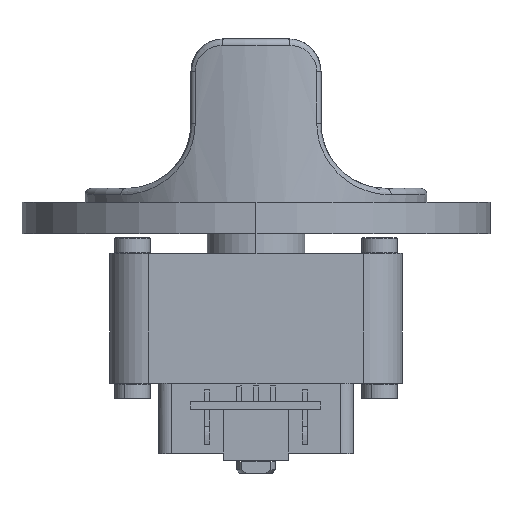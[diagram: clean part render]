
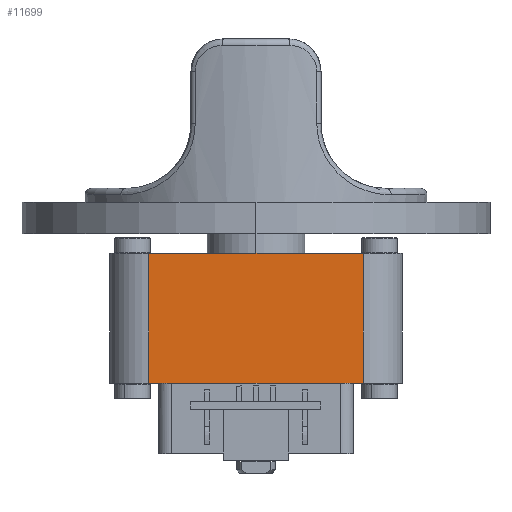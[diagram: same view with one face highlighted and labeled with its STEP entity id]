
A CAD part, front view. The second image highlights one B-rep face of the part: STEP entity #11699.
In plain terms, the highlighted planar face has unit normal (0, -1, 0).
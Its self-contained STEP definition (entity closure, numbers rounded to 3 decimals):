
#134 = ORIENTED_EDGE ( 'NONE', *, *, #9969, .T. ) ;
#433 = CARTESIAN_POINT ( 'NONE',  ( 16.5, -16.1, -23. ) ) ;
#679 = VECTOR ( 'NONE', #1800, 1000. ) ;
#1027 = LINE ( 'NONE', #4907, #4595 ) ;
#1129 = EDGE_CURVE ( 'NONE', #11174, #11327, #7419, .T. ) ;
#1163 = DIRECTION ( 'NONE',  ( 0.545, 0., -0.839 ) ) ;
#1204 = DIRECTION ( 'NONE',  ( 0., 1., 0. ) ) ;
#1219 = LINE ( 'NONE', #12604, #6953 ) ;
#1646 = CARTESIAN_POINT ( 'NONE',  ( -16.5, -16.1, -3. ) ) ;
#1800 = DIRECTION ( 'NONE',  ( 0., 0., 1. ) ) ;
#2129 = EDGE_CURVE ( 'NONE', #11940, #11327, #1027, .T. ) ;
#2149 = VECTOR ( 'NONE', #9748, 1000. ) ;
#2265 = VECTOR ( 'NONE', #7425, 1000. ) ;
#2302 = CARTESIAN_POINT ( 'NONE',  ( 16.5, -16.1, -76.535 ) ) ;
#2812 = DIRECTION ( 'NONE',  ( 1., 0., 0. ) ) ;
#2894 = CARTESIAN_POINT ( 'NONE',  ( 14.67, -16.1, -23. ) ) ;
#3103 = ORIENTED_EDGE ( 'NONE', *, *, #7248, .T. ) ;
#3108 = VECTOR ( 'NONE', #5209, 1000. ) ;
#3345 = LINE ( 'NONE', #8762, #679 ) ;
#3362 = CARTESIAN_POINT ( 'NONE',  ( 16.5, -16.1, -23. ) ) ;
#3564 = EDGE_CURVE ( 'NONE', #9597, #11940, #3345, .T. ) ;
#4586 = VERTEX_POINT ( 'NONE', #12765 ) ;
#4595 = VECTOR ( 'NONE', #2812, 1000. ) ;
#4849 = AXIS2_PLACEMENT_3D ( 'NONE', #2302, #1204, #1163 ) ;
#4907 = CARTESIAN_POINT ( 'NONE',  ( -16.5, -16.1, -3. ) ) ;
#5066 = EDGE_LOOP ( 'NONE', ( #10908, #6589, #134, #9282, #3103, #8743 ) ) ;
#5209 = DIRECTION ( 'NONE',  ( 1., 0., 0. ) ) ;
#6100 = PLANE ( 'NONE',  #4849 ) ;
#6589 = ORIENTED_EDGE ( 'NONE', *, *, #3564, .F. ) ;
#6649 = VERTEX_POINT ( 'NONE', #2894 ) ;
#6953 = VECTOR ( 'NONE', #11725, 1000. ) ;
#7097 = EDGE_CURVE ( 'NONE', #4586, #6649, #10370, .T. ) ;
#7248 = EDGE_CURVE ( 'NONE', #6649, #11174, #1219, .T. ) ;
#7419 = LINE ( 'NONE', #9339, #2149 ) ;
#7425 = DIRECTION ( 'NONE',  ( 1., 0., 0. ) ) ;
#8743 = ORIENTED_EDGE ( 'NONE', *, *, #1129, .T. ) ;
#8762 = CARTESIAN_POINT ( 'NONE',  ( -16.5, -16.1, -76.535 ) ) ;
#9282 = ORIENTED_EDGE ( 'NONE', *, *, #7097, .T. ) ;
#9339 = CARTESIAN_POINT ( 'NONE',  ( 16.5, -16.1, -76.535 ) ) ;
#9597 = VERTEX_POINT ( 'NONE', #9617 ) ;
#9617 = CARTESIAN_POINT ( 'NONE',  ( -16.5, -16.1, -23. ) ) ;
#9748 = DIRECTION ( 'NONE',  ( 0., 0., 1. ) ) ;
#9969 = EDGE_CURVE ( 'NONE', #9597, #4586, #11853, .T. ) ;
#10099 = FACE_OUTER_BOUND ( 'NONE', #5066, .T. ) ;
#10370 = LINE ( 'NONE', #12005, #3108 ) ;
#10475 = CARTESIAN_POINT ( 'NONE',  ( 16.5, -16.1, -3. ) ) ;
#10908 = ORIENTED_EDGE ( 'NONE', *, *, #2129, .F. ) ;
#11174 = VERTEX_POINT ( 'NONE', #3362 ) ;
#11327 = VERTEX_POINT ( 'NONE', #10475 ) ;
#11699 = ADVANCED_FACE ( 'NONE', ( #10099 ), #6100, .F. ) ;
#11725 = DIRECTION ( 'NONE',  ( 1., 0., 0. ) ) ;
#11853 = LINE ( 'NONE', #433, #2265 ) ;
#11940 = VERTEX_POINT ( 'NONE', #1646 ) ;
#12005 = CARTESIAN_POINT ( 'NONE',  ( 16.5, -16.1, -23. ) ) ;
#12604 = CARTESIAN_POINT ( 'NONE',  ( 16.5, -16.1, -23. ) ) ;
#12765 = CARTESIAN_POINT ( 'NONE',  ( -14.67, -16.1, -23. ) ) ;
